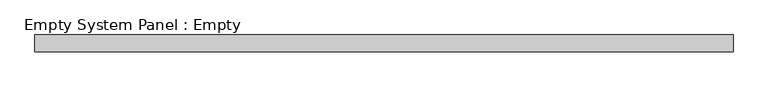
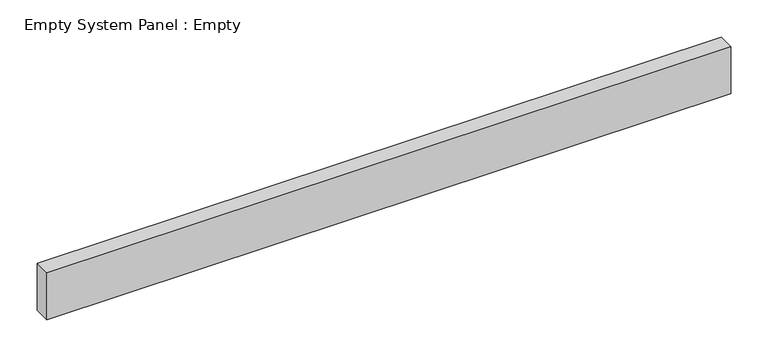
"""IFC4 building model written with IfcOpenShell, lengths in millimetres: plate geometry, Empty System Panel : Empty."""

from ifc_helpers import new_model, si_unit, origin, origin_with_axes, place, context, project, spatial, polyline, outline, extrude, source, transform, mapped, element, save


def empty_system_panel_empty_d93e3753(model_context):
    return source(origin(), model_context, "Body", "SweptSolid", [
        extrude(outline(polyline([(527.05, 19.05), (-527.05, 19.05), (-527.05, 44.45), (527.05, 44.45), (527.05, 19.05)])), origin_with_axes(), (0.0, 0.0, 1.0), 76.2),
    ])


if __name__ == "__main__":
    model = new_model("IFC4")
    model_context = context("Model", 3, world=origin())
    ifc_project = project(units=[si_unit("LENGTHUNIT", "METRE", prefix="MILLI")], contexts=[model_context])
    site = spatial("IfcSite", under=ifc_project)
    building = spatial("IfcBuilding", under=site)
    placement = place(None, origin())
    empty_system_panel_empty_shape = empty_system_panel_empty_d93e3753(model_context)
    element("IfcPlate", 1, ObjectType="Empty System Panel : Empty", at=placement, inside=building, context=model_context, shape_type="MappedRepresentation", body=[
        mapped(empty_system_panel_empty_shape, transform((0.0, 0.0, 0.0), x_axis=(1.0, 0.0, 0.0), y_axis=(0.0, 1.0, 0.0), z_axis=(0.0, 0.0, 1.0))),
    ])
    save(model, "model.ifc")
